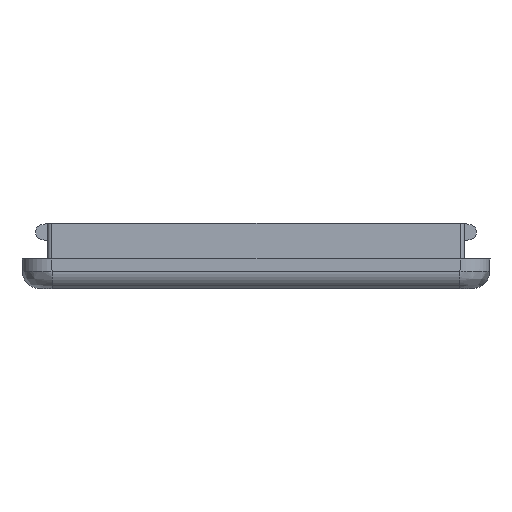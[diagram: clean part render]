
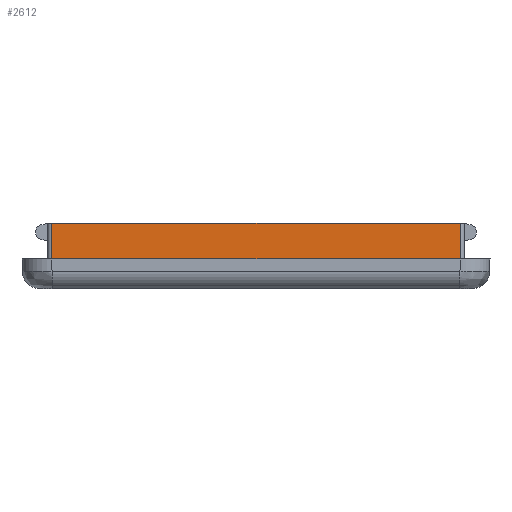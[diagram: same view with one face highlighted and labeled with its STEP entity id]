
A CAD part, left-side view. The second image highlights one B-rep face of the part: STEP entity #2612.
In plain terms, the highlighted planar face has unit normal (-1, 0, 0).
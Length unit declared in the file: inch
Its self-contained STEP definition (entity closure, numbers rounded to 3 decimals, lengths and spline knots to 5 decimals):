
#1878=CARTESIAN_POINT('',(-2.465,-0.68502,0.0));
#1879=VERTEX_POINT('',#1878);
#1901=CARTESIAN_POINT('',(-2.465,0.68502,0.0));
#1902=VERTEX_POINT('',#1901);
#1903=CARTESIAN_POINT('',(-2.465,-0.68502,0.0));
#1904=DIRECTION('',(0.0,1.0,0.0));
#1905=VECTOR('',#1904,1.37003);
#1906=LINE('',#1903,#1905);
#1907=EDGE_CURVE('',#1879,#1902,#1906,.T.);
#2377=CARTESIAN_POINT('',(-2.465,0.68502,0.12));
#2378=VERTEX_POINT('',#2377);
#2400=CARTESIAN_POINT('',(-2.465,-0.68502,0.12));
#2401=VERTEX_POINT('',#2400);
#2402=CARTESIAN_POINT('',(-2.465,-0.68502,0.12));
#2403=DIRECTION('',(0.0,1.0,0.0));
#2404=VECTOR('',#2403,1.37003);
#2405=LINE('',#2402,#2404);
#2406=EDGE_CURVE('',#2401,#2378,#2405,.T.);
#2585=CARTESIAN_POINT('',(-2.465,-0.68502,0.0));
#2586=DIRECTION('',(0.0,0.0,1.0));
#2587=VECTOR('',#2586,0.12);
#2588=LINE('',#2585,#2587);
#2589=EDGE_CURVE('',#1879,#2401,#2588,.T.);
#2596=CARTESIAN_POINT('',(-2.465,-0.68502,0.0));
#2597=DIRECTION('',(-1.0,0.0,0.0));
#2598=DIRECTION('',(0.0,0.0,1.0));
#2599=AXIS2_PLACEMENT_3D('',#2596,#2597,#2598);
#2600=PLANE('',#2599);
#2601=ORIENTED_EDGE('',*,*,#2406,.T.);
#2602=CARTESIAN_POINT('',(-2.465,0.68502,0.0));
#2603=DIRECTION('',(0.0,0.0,1.0));
#2604=VECTOR('',#2603,0.12);
#2605=LINE('',#2602,#2604);
#2606=EDGE_CURVE('',#1902,#2378,#2605,.T.);
#2607=ORIENTED_EDGE('',*,*,#2606,.F.);
#2608=ORIENTED_EDGE('',*,*,#1907,.F.);
#2609=ORIENTED_EDGE('',*,*,#2589,.T.);
#2610=EDGE_LOOP('',(#2601,#2607,#2608,#2609));
#2611=FACE_OUTER_BOUND('',#2610,.T.);
#2612=ADVANCED_FACE('',(#2611),#2600,.T.);
